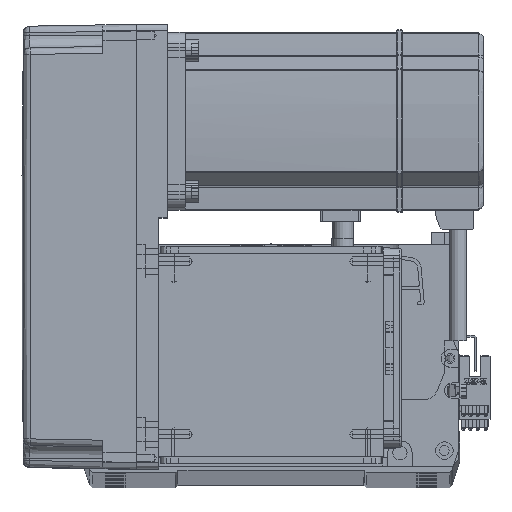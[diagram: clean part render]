
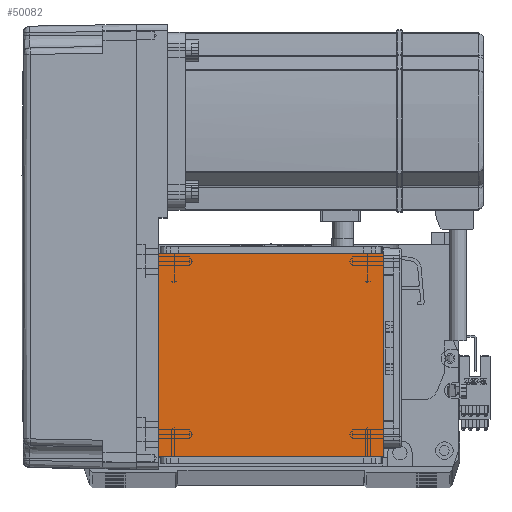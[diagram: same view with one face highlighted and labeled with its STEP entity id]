
A CAD part, top view. The second image highlights one B-rep face of the part: STEP entity #50082.
In plain terms, the highlighted planar face has unit normal (0, 0, 1).
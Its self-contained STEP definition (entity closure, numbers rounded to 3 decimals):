
#735 = FACE_OUTER_BOUND ( 'NONE', #33566, .T. ) ;
#7981 = DIRECTION ( 'NONE',  ( 1., 0., 0. ) ) ;
#9920 = LINE ( 'NONE', #55117, #20709 ) ;
#12742 = VECTOR ( 'NONE', #7981, 1000. ) ;
#15144 = VERTEX_POINT ( 'NONE', #61515 ) ;
#16252 = CARTESIAN_POINT ( 'NONE',  ( -70.004, 20., 115. ) ) ;
#16255 = CARTESIAN_POINT ( 'NONE',  ( -50.5, 20., 115. ) ) ;
#18607 = DIRECTION ( 'NONE',  ( 0., 1., 0. ) ) ;
#20709 = VECTOR ( 'NONE', #33778, 1000. ) ;
#21991 = VECTOR ( 'NONE', #18607, 1000. ) ;
#22281 = EDGE_CURVE ( 'NONE', #25282, #15144, #46835, .T. ) ;
#23502 = CARTESIAN_POINT ( 'NONE',  ( 50.5, 122., 115. ) ) ;
#25282 = VERTEX_POINT ( 'NONE', #54801 ) ;
#25386 = CARTESIAN_POINT ( 'NONE',  ( 0., 0., 115. ) ) ;
#27227 = DIRECTION ( 'NONE',  ( -1., 0., 0. ) ) ;
#28232 = EDGE_CURVE ( 'NONE', #59020, #15144, #41909, .T. ) ;
#28331 = ORIENTED_EDGE ( 'NONE', *, *, #44375, .F. ) ;
#29184 = CARTESIAN_POINT ( 'NONE',  ( -70.004, 111.5, 115. ) ) ;
#30940 = CARTESIAN_POINT ( 'NONE',  ( 50.5, 20., 115. ) ) ;
#31184 = ORIENTED_EDGE ( 'NONE', *, *, #31921, .T. ) ;
#31198 = DIRECTION ( 'NONE',  ( 0., 0., 1. ) ) ;
#31921 = EDGE_CURVE ( 'NONE', #25282, #67470, #9920, .T. ) ;
#32191 = VECTOR ( 'NONE', #27227, 1000. ) ;
#33566 = EDGE_LOOP ( 'NONE', ( #46186, #31184, #28331, #42212 ) ) ;
#33778 = DIRECTION ( 'NONE',  ( 0., -1., 0. ) ) ;
#36065 = PLANE ( 'NONE',  #54169 ) ;
#41909 = LINE ( 'NONE', #23502, #21991 ) ;
#42212 = ORIENTED_EDGE ( 'NONE', *, *, #28232, .T. ) ;
#44375 = EDGE_CURVE ( 'NONE', #59020, #67470, #57990, .T. ) ;
#46186 = ORIENTED_EDGE ( 'NONE', *, *, #22281, .F. ) ;
#46835 = LINE ( 'NONE', #29184, #12742 ) ;
#50082 = ADVANCED_FACE ( 'NONE', ( #735 ), #36065, .T. ) ;
#54169 = AXIS2_PLACEMENT_3D ( 'NONE', #25386, #31198, #62393 ) ;
#54801 = CARTESIAN_POINT ( 'NONE',  ( -50.5, 111.5, 115. ) ) ;
#55117 = CARTESIAN_POINT ( 'NONE',  ( -50.5, 122., 115. ) ) ;
#57990 = LINE ( 'NONE', #16252, #32191 ) ;
#59020 = VERTEX_POINT ( 'NONE', #30940 ) ;
#61515 = CARTESIAN_POINT ( 'NONE',  ( 50.5, 111.5, 115. ) ) ;
#62393 = DIRECTION ( 'NONE',  ( 1., 0., 0. ) ) ;
#67470 = VERTEX_POINT ( 'NONE', #16255 ) ;
